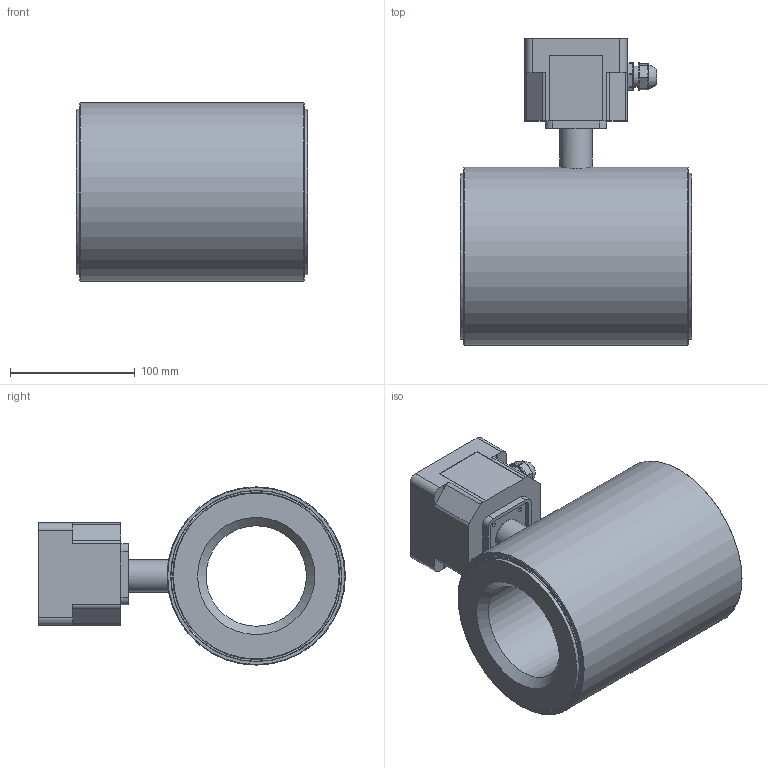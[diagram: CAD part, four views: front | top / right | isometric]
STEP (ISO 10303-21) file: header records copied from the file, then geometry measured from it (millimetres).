
FILE_DESCRIPTION(/* description */ (''),/* implementation_level */ '2;1');
FILE_NAME(/* name */ 'C:\ТЭК\Реклама\ПРЭМ-80S\ПРЭМ-80S.stp',/* time_stamp */ '2020-01-29T15:51:04+03:00',/* author */ ('Kishalov.m'),/* organization */ (''),/* preprocessor_version */ 'ST-DEVELOPER v18',/* originating_system */ 'Autodesk Inventor 2020',/* authorisation */ '');
FILE_SCHEMA (('AUTOMOTIVE_DESIGN { 1 0 10303 214 3 1 1 }'));
Length unit declared in the file: millimetre
Products named in the file (1): ПРЭМ-80S
Bounding box: 186 x 246 x 143 mm (x, y, z)
Volume: 788010.6 mm3; surface area: 389830.7 mm2
Topology: 5 solids, 5 shells, 2025 faces, 5295 edges, 3373 vertices
Faces by surface type: plane 1203, bspline 449, cylinder 275, sphere 60, cone 36, torus 2
Full cylindrical faces by diameter (mm): 0.431 x1, 0.546 x1, 1.159 x2, 1.5 x2, 1.7 x4, 1.8 x8, 2.5 x4, 3.242 x8, 3.65 x4, 4.2 x1, 4.5 x4, 4.7 x4, 5 x2, 5.472 x1, 5.5 x3, 7.5 x4, 8.5 x4, 11 x8, 12 x2, 13 x2, 17 x6, 18 x1, 19.094 x2, 20.5 x1, 21.2 x1, 25 x1, 25.1 x1, 26 x1, 80.5 x1, 86.5 x1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
Entity records: 70086 total; most frequent: CARTESIAN_POINT 21162, ORIENTED_EDGE 10410, DIRECTION 8154, EDGE_CURVE 5205, LINE 3614, VECTOR 3614, VERTEX_POINT 3373, AXIS2_PLACEMENT_3D 2270
